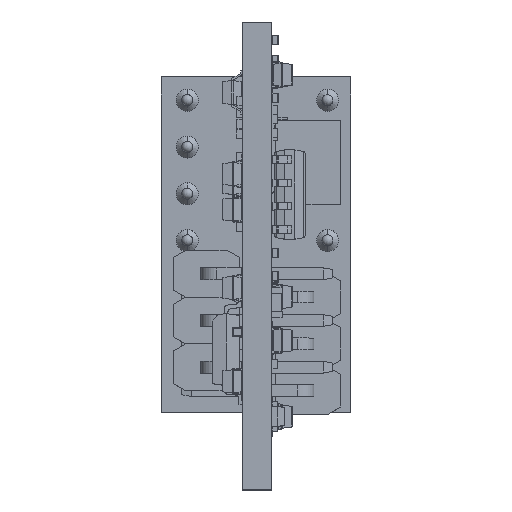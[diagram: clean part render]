
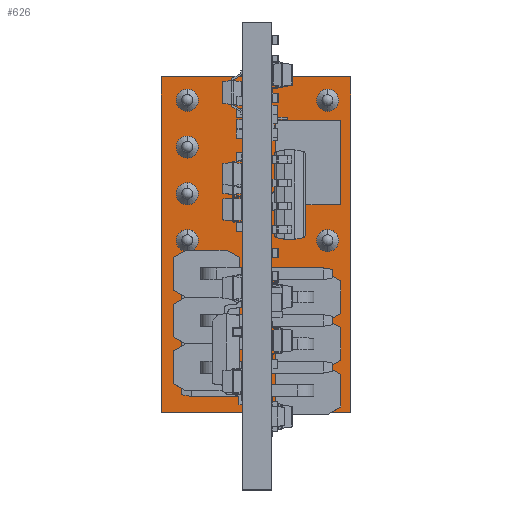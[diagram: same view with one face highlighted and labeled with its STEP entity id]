
A CAD part, top view. The second image highlights one B-rep face of the part: STEP entity #626.
In plain terms, the highlighted planar face has unit normal (0, 0, 1).
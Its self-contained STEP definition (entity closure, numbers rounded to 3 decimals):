
#45 = VERTEX_POINT('',#46);
#46 = CARTESIAN_POINT('',(0.,0.,0.));
#63 = VERTEX_POINT('',#64);
#64 = CARTESIAN_POINT('',(0.,18.256,0.));
#70 = EDGE_CURVE('',#45,#63,#71,.T.);
#71 = LINE('',#72,#73);
#72 = CARTESIAN_POINT('',(0.,0.,0.));
#73 = VECTOR('',#74,1.);
#74 = DIRECTION('',(0.,1.,0.));
#94 = VERTEX_POINT('',#95);
#95 = CARTESIAN_POINT('',(10.319,18.256,0.));
#101 = EDGE_CURVE('',#63,#94,#102,.T.);
#102 = LINE('',#103,#104);
#103 = CARTESIAN_POINT('',(0.,18.256,0.));
#104 = VECTOR('',#105,1.);
#105 = DIRECTION('',(1.,0.,0.));
#125 = VERTEX_POINT('',#126);
#126 = CARTESIAN_POINT('',(10.319,0.,0.));
#132 = EDGE_CURVE('',#94,#125,#133,.T.);
#133 = LINE('',#134,#135);
#134 = CARTESIAN_POINT('',(10.319,18.256,0.));
#135 = VECTOR('',#136,1.);
#136 = DIRECTION('',(0.,-1.,0.));
#154 = EDGE_CURVE('',#125,#45,#155,.T.);
#155 = LINE('',#156,#157);
#156 = CARTESIAN_POINT('',(10.319,0.,0.));
#157 = VECTOR('',#158,1.);
#158 = DIRECTION('',(-1.,0.,0.));
#169 = VERTEX_POINT('',#170);
#170 = CARTESIAN_POINT('',(2.029,16.986,0.));
#186 = EDGE_CURVE('',#169,#169,#187,.T.);
#187 = CIRCLE('',#188,0.6);
#188 = AXIS2_PLACEMENT_3D('',#189,#190,#191);
#189 = CARTESIAN_POINT('',(1.429,16.986,0.));
#190 = DIRECTION('',(0.,0.,-1.));
#191 = DIRECTION('',(1.,0.,0.));
#202 = VERTEX_POINT('',#203);
#203 = CARTESIAN_POINT('',(2.029,14.446,0.));
#219 = EDGE_CURVE('',#202,#202,#220,.T.);
#220 = CIRCLE('',#221,0.6);
#221 = AXIS2_PLACEMENT_3D('',#222,#223,#224);
#222 = CARTESIAN_POINT('',(1.429,14.446,0.));
#223 = DIRECTION('',(0.,0.,-1.));
#224 = DIRECTION('',(1.,0.,0.));
#235 = VERTEX_POINT('',#236);
#236 = CARTESIAN_POINT('',(2.029,11.906,0.));
#252 = EDGE_CURVE('',#235,#235,#253,.T.);
#253 = CIRCLE('',#254,0.6);
#254 = AXIS2_PLACEMENT_3D('',#255,#256,#257);
#255 = CARTESIAN_POINT('',(1.429,11.906,0.));
#256 = DIRECTION('',(0.,0.,-1.));
#257 = DIRECTION('',(1.,0.,0.));
#268 = VERTEX_POINT('',#269);
#269 = CARTESIAN_POINT('',(2.029,9.366,0.));
#285 = EDGE_CURVE('',#268,#268,#286,.T.);
#286 = CIRCLE('',#287,0.6);
#287 = AXIS2_PLACEMENT_3D('',#288,#289,#290);
#288 = CARTESIAN_POINT('',(1.429,9.366,0.));
#289 = DIRECTION('',(0.,0.,-1.));
#290 = DIRECTION('',(1.,0.,0.));
#301 = VERTEX_POINT('',#302);
#302 = CARTESIAN_POINT('',(9.649,16.986,0.));
#318 = EDGE_CURVE('',#301,#301,#319,.T.);
#319 = CIRCLE('',#320,0.6);
#320 = AXIS2_PLACEMENT_3D('',#321,#322,#323);
#321 = CARTESIAN_POINT('',(9.049,16.986,0.));
#322 = DIRECTION('',(0.,0.,-1.));
#323 = DIRECTION('',(1.,0.,0.));
#334 = VERTEX_POINT('',#335);
#335 = CARTESIAN_POINT('',(9.649,14.446,0.));
#351 = EDGE_CURVE('',#334,#334,#352,.T.);
#352 = CIRCLE('',#353,0.6);
#353 = AXIS2_PLACEMENT_3D('',#354,#355,#356);
#354 = CARTESIAN_POINT('',(9.049,14.446,0.));
#355 = DIRECTION('',(0.,0.,-1.));
#356 = DIRECTION('',(1.,0.,0.));
#367 = VERTEX_POINT('',#368);
#368 = CARTESIAN_POINT('',(9.649,11.906,0.));
#384 = EDGE_CURVE('',#367,#367,#385,.T.);
#385 = CIRCLE('',#386,0.6);
#386 = AXIS2_PLACEMENT_3D('',#387,#388,#389);
#387 = CARTESIAN_POINT('',(9.049,11.906,0.));
#388 = DIRECTION('',(0.,0.,-1.));
#389 = DIRECTION('',(1.,0.,0.));
#400 = VERTEX_POINT('',#401);
#401 = CARTESIAN_POINT('',(9.649,9.366,0.));
#417 = EDGE_CURVE('',#400,#400,#418,.T.);
#418 = CIRCLE('',#419,0.6);
#419 = AXIS2_PLACEMENT_3D('',#420,#421,#422);
#420 = CARTESIAN_POINT('',(9.049,9.366,0.));
#421 = DIRECTION('',(0.,0.,-1.));
#422 = DIRECTION('',(1.,0.,0.));
#433 = VERTEX_POINT('',#434);
#434 = CARTESIAN_POINT('',(2.852,2.539,0.));
#450 = EDGE_CURVE('',#433,#433,#451,.T.);
#451 = CIRCLE('',#452,0.55);
#452 = AXIS2_PLACEMENT_3D('',#453,#454,#455);
#453 = CARTESIAN_POINT('',(2.302,2.539,0.));
#454 = DIRECTION('',(0.,0.,-1.));
#455 = DIRECTION('',(1.,0.,0.));
#466 = VERTEX_POINT('',#467);
#467 = CARTESIAN_POINT('',(2.852,5.081,0.));
#483 = EDGE_CURVE('',#466,#466,#484,.T.);
#484 = CIRCLE('',#485,0.55);
#485 = AXIS2_PLACEMENT_3D('',#486,#487,#488);
#486 = CARTESIAN_POINT('',(2.302,5.081,0.));
#487 = DIRECTION('',(0.,0.,-1.));
#488 = DIRECTION('',(1.,0.,0.));
#499 = VERTEX_POINT('',#500);
#500 = CARTESIAN_POINT('',(2.852,7.621,0.));
#516 = EDGE_CURVE('',#499,#499,#517,.T.);
#517 = CIRCLE('',#518,0.55);
#518 = AXIS2_PLACEMENT_3D('',#519,#520,#521);
#519 = CARTESIAN_POINT('',(2.302,7.621,0.));
#520 = DIRECTION('',(0.,0.,-1.));
#521 = DIRECTION('',(1.,0.,0.));
#532 = VERTEX_POINT('',#533);
#533 = CARTESIAN_POINT('',(8.567,1.269,0.));
#549 = EDGE_CURVE('',#532,#532,#550,.T.);
#550 = CIRCLE('',#551,0.55);
#551 = AXIS2_PLACEMENT_3D('',#552,#553,#554);
#552 = CARTESIAN_POINT('',(8.017,1.269,0.));
#553 = DIRECTION('',(0.,0.,-1.));
#554 = DIRECTION('',(1.,0.,0.));
#565 = VERTEX_POINT('',#566);
#566 = CARTESIAN_POINT('',(8.567,3.811,0.));
#582 = EDGE_CURVE('',#565,#565,#583,.T.);
#583 = CIRCLE('',#584,0.55);
#584 = AXIS2_PLACEMENT_3D('',#585,#586,#587);
#585 = CARTESIAN_POINT('',(8.017,3.811,0.));
#586 = DIRECTION('',(0.,0.,-1.));
#587 = DIRECTION('',(1.,0.,0.));
#598 = VERTEX_POINT('',#599);
#599 = CARTESIAN_POINT('',(8.567,6.351,0.));
#615 = EDGE_CURVE('',#598,#598,#616,.T.);
#616 = CIRCLE('',#617,0.55);
#617 = AXIS2_PLACEMENT_3D('',#618,#619,#620);
#618 = CARTESIAN_POINT('',(8.017,6.351,0.));
#619 = DIRECTION('',(0.,0.,-1.));
#620 = DIRECTION('',(1.,0.,0.));
#626 = ADVANCED_FACE('',(#627,#633,#636,#639,#642,#645,#648,#651,#654,
    #657,#660,#663,#666,#669,#672),#675,.T.);
#627 = FACE_BOUND('',#628,.F.);
#628 = EDGE_LOOP('',(#629,#630,#631,#632));
#629 = ORIENTED_EDGE('',*,*,#70,.T.);
#630 = ORIENTED_EDGE('',*,*,#101,.T.);
#631 = ORIENTED_EDGE('',*,*,#132,.T.);
#632 = ORIENTED_EDGE('',*,*,#154,.T.);
#633 = FACE_BOUND('',#634,.F.);
#634 = EDGE_LOOP('',(#635));
#635 = ORIENTED_EDGE('',*,*,#186,.T.);
#636 = FACE_BOUND('',#637,.F.);
#637 = EDGE_LOOP('',(#638));
#638 = ORIENTED_EDGE('',*,*,#219,.T.);
#639 = FACE_BOUND('',#640,.F.);
#640 = EDGE_LOOP('',(#641));
#641 = ORIENTED_EDGE('',*,*,#252,.T.);
#642 = FACE_BOUND('',#643,.F.);
#643 = EDGE_LOOP('',(#644));
#644 = ORIENTED_EDGE('',*,*,#285,.T.);
#645 = FACE_BOUND('',#646,.F.);
#646 = EDGE_LOOP('',(#647));
#647 = ORIENTED_EDGE('',*,*,#318,.T.);
#648 = FACE_BOUND('',#649,.F.);
#649 = EDGE_LOOP('',(#650));
#650 = ORIENTED_EDGE('',*,*,#351,.T.);
#651 = FACE_BOUND('',#652,.F.);
#652 = EDGE_LOOP('',(#653));
#653 = ORIENTED_EDGE('',*,*,#384,.T.);
#654 = FACE_BOUND('',#655,.F.);
#655 = EDGE_LOOP('',(#656));
#656 = ORIENTED_EDGE('',*,*,#417,.T.);
#657 = FACE_BOUND('',#658,.F.);
#658 = EDGE_LOOP('',(#659));
#659 = ORIENTED_EDGE('',*,*,#450,.T.);
#660 = FACE_BOUND('',#661,.F.);
#661 = EDGE_LOOP('',(#662));
#662 = ORIENTED_EDGE('',*,*,#483,.T.);
#663 = FACE_BOUND('',#664,.F.);
#664 = EDGE_LOOP('',(#665));
#665 = ORIENTED_EDGE('',*,*,#516,.T.);
#666 = FACE_BOUND('',#667,.F.);
#667 = EDGE_LOOP('',(#668));
#668 = ORIENTED_EDGE('',*,*,#549,.T.);
#669 = FACE_BOUND('',#670,.F.);
#670 = EDGE_LOOP('',(#671));
#671 = ORIENTED_EDGE('',*,*,#582,.T.);
#672 = FACE_BOUND('',#673,.F.);
#673 = EDGE_LOOP('',(#674));
#674 = ORIENTED_EDGE('',*,*,#615,.T.);
#675 = PLANE('',#676);
#676 = AXIS2_PLACEMENT_3D('',#677,#678,#679);
#677 = CARTESIAN_POINT('',(0.,0.,0.));
#678 = DIRECTION('',(0.,0.,1.));
#679 = DIRECTION('',(1.,0.,0.));
